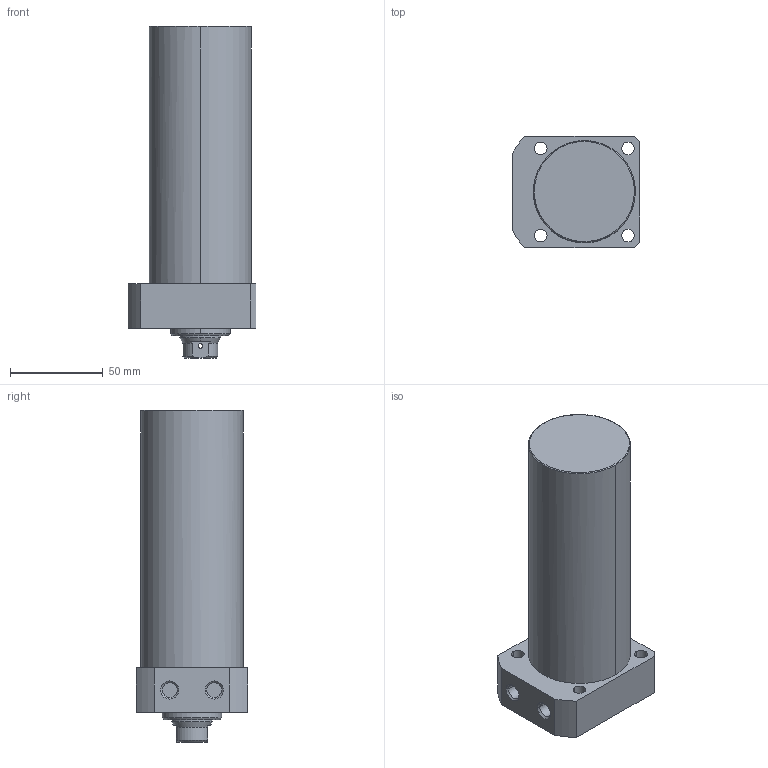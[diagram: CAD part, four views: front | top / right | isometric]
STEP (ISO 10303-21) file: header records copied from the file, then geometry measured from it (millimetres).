
FILE_DESCRIPTION((' '),'2;1');
FILE_NAME( 'TLLR-055CB-110.STEP.stp', '2025-10-24T16:34:45', (' '), ('--- Datakit www.datakit.com---'), ' Datakit CrossCadWare V2024.1 Dec 21 2023', 'Mastercam 2025', ' ');
FILE_SCHEMA(('AUTOMOTIVE_DESIGN { 1 0 10303 214 1 1 1 1 }'));
Length unit declared in the file: millimetre
Products named in the file (1): TLLR-055CB-110
Bounding box: 69 x 60 x 179 mm (x, y, z)
Volume: 427825.6 mm3; surface area: 42353 mm2
Topology: 1 solids, 1 shells, 67 faces, 197 edges, 136 vertices
Faces by surface type: cylinder 32, plane 19, cone 14, torus 2
Entity records: 3058 total; most frequent: CARTESIAN_POINT 1139, DIRECTION 426, ORIENTED_EDGE 390, EDGE_CURVE 195, AXIS2_PLACEMENT_3D 179, VERTEX_POINT 136, CIRCLE 111, EDGE_LOOP 85
